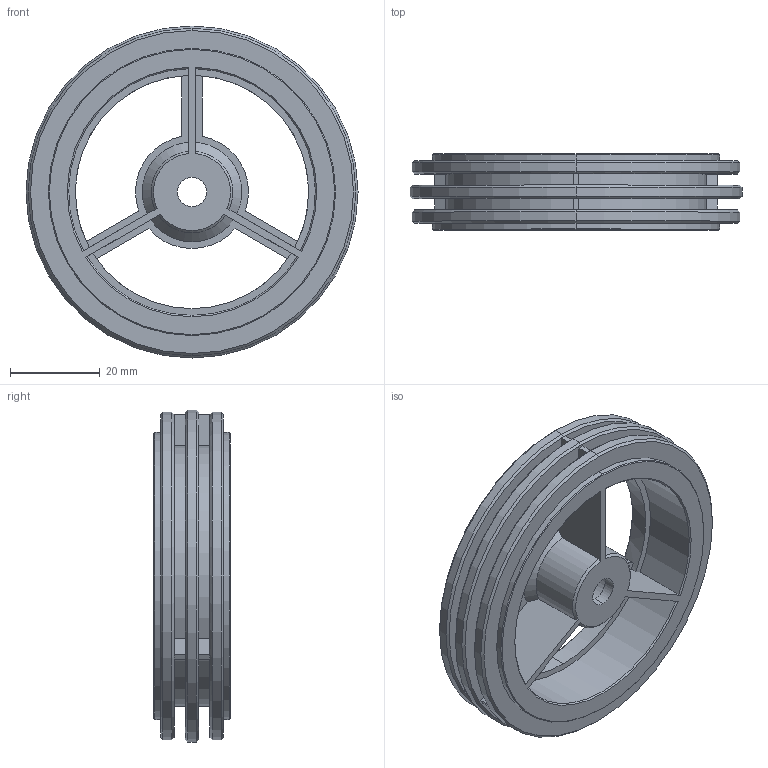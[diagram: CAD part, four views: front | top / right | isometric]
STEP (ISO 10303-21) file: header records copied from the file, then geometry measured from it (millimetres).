
FILE_DESCRIPTION (( 'STEP AP214' ), '1' );
FILE_NAME ('80mm謫麇.STEP', '2017-08-07T05:23:41', ( 'china' ), ( 'china' ), 'SwSTEP 2.0', 'SolidWorks 2016', '' );
FILE_SCHEMA (( 'AUTOMOTIVE_DESIGN' ));
Length unit declared in the file: millimetre
Products named in the file (1): 80mm謫麇
Bounding box: 74 x 17 x 74 mm (x, y, z)
Volume: 27059.7 mm3; surface area: 20890.5 mm2
Topology: 1 solids, 1 shells, 127 faces, 314 edges, 195 vertices
Faces by surface type: plane 50, cylinder 40, cone 37
Entity records: 3848 total; most frequent: CARTESIAN_POINT 739, DIRECTION 672, ORIENTED_EDGE 628, EDGE_CURVE 314, AXIS2_PLACEMENT_3D 260, VERTEX_POINT 195, VECTOR 152, LINE 152
